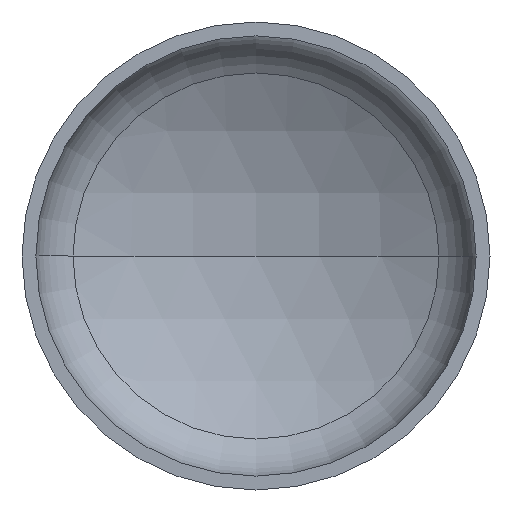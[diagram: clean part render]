
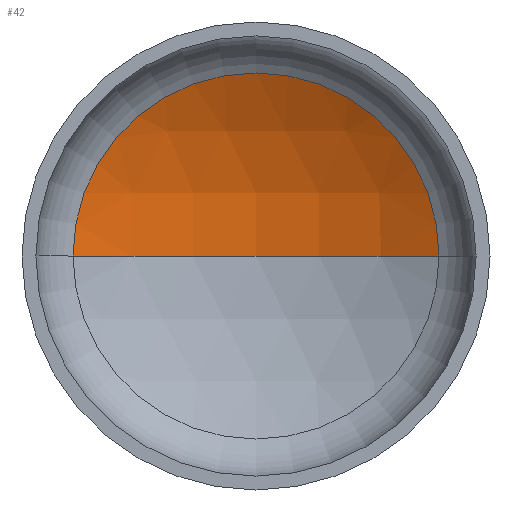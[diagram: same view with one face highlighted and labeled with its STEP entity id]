
A CAD part, front view. The second image highlights one B-rep face of the part: STEP entity #42.
In plain terms, the highlighted spherical face has radius 135 mm.
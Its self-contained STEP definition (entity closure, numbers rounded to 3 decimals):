
#41 = VERTEX_POINT ( 'NONE', #240 ) ;
#42 = ADVANCED_FACE ( 'NONE', ( #317 ), #327, .F. ) ;
#54 = CARTESIAN_POINT ( 'NONE',  ( 0., 59.837, 0. ) ) ;
#58 = DIRECTION ( 'NONE',  ( 0., 0., 1. ) ) ;
#62 = DIRECTION ( 'NONE',  ( 1., 0., 0. ) ) ;
#64 = CARTESIAN_POINT ( 'NONE',  ( 0., -75.163, 0. ) ) ;
#68 = CARTESIAN_POINT ( 'NONE',  ( 0., -75.163, 0. ) ) ;
#71 = DIRECTION ( 'NONE',  ( 1., 0., 0. ) ) ;
#91 = CIRCLE ( 'NONE', #135, 65.828 ) ;
#118 = CIRCLE ( 'NONE', #161, 135. ) ;
#120 = DIRECTION ( 'NONE',  ( 0., 0., -1. ) ) ;
#128 = CIRCLE ( 'NONE', #156, 135. ) ;
#135 = AXIS2_PLACEMENT_3D ( 'NONE', #275, #248, #71 ) ;
#156 = AXIS2_PLACEMENT_3D ( 'NONE', #68, #120, #312 ) ;
#161 = AXIS2_PLACEMENT_3D ( 'NONE', #64, #58, #62 ) ;
#188 = DIRECTION ( 'NONE',  ( -1., 0., 0. ) ) ;
#189 = CARTESIAN_POINT ( 'NONE',  ( 0., -75.163, 0. ) ) ;
#195 = DIRECTION ( 'NONE',  ( 0., 0., -1. ) ) ;
#211 = ORIENTED_EDGE ( 'NONE', *, *, #348, .F. ) ;
#240 = CARTESIAN_POINT ( 'NONE',  ( 65.828, 42.7, 0. ) ) ;
#248 = DIRECTION ( 'NONE',  ( 0., -1., 0. ) ) ;
#265 = VERTEX_POINT ( 'NONE', #356 ) ;
#266 = AXIS2_PLACEMENT_3D ( 'NONE', #189, #195, #188 ) ;
#275 = CARTESIAN_POINT ( 'NONE',  ( 0., 42.7, 0. ) ) ;
#312 = DIRECTION ( 'NONE',  ( -1., 0., 0. ) ) ;
#317 = FACE_OUTER_BOUND ( 'NONE', #398, .T. ) ;
#327 = SPHERICAL_SURFACE ( 'NONE', #266, 135. ) ;
#348 = EDGE_CURVE ( 'NONE', #393, #265, #118, .T. ) ;
#350 = ORIENTED_EDGE ( 'NONE', *, *, #367, .T. ) ;
#356 = CARTESIAN_POINT ( 'NONE',  ( -65.828, 42.7, 0. ) ) ;
#357 = EDGE_CURVE ( 'NONE', #393, #41, #128, .T. ) ;
#367 = EDGE_CURVE ( 'NONE', #41, #265, #91, .T. ) ;
#393 = VERTEX_POINT ( 'NONE', #54 ) ;
#398 = EDGE_LOOP ( 'NONE', ( #211, #405, #350 ) ) ;
#405 = ORIENTED_EDGE ( 'NONE', *, *, #357, .T. ) ;
